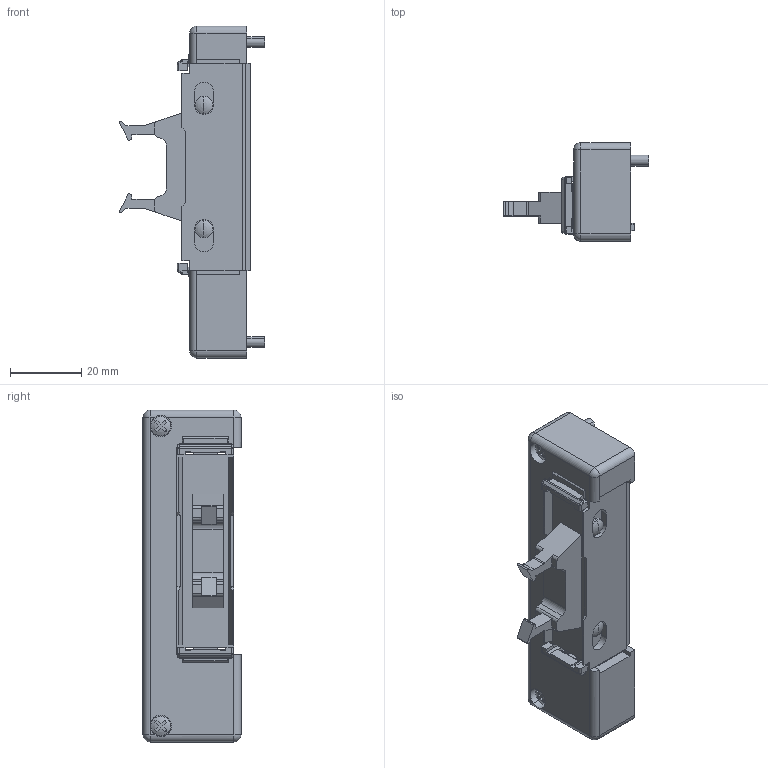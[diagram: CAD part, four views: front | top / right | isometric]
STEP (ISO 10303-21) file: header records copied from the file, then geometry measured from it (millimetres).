
FILE_DESCRIPTION( (''), '2;1');
FILE_NAME ('CVICAD32.25716.FZX-F10xN-E_10600.stp','2020-09-09T09:19:51',(''),(''),'spGate 12.6.6','','');
FILE_SCHEMA (('AUTOMOTIVE_DESIGN'));
Length unit declared in the file: millimetre
Products named in the file (3): Assembly; CVICAD32-prt0; CVICAD32-prt1
Assembly tree (2 placements, depth 2):
  Assembly
    CVICAD32-prt0
    CVICAD32-prt1
Bounding box: 40.7 x 27.5 x 93 mm (x, y, z)
Volume: 35512.6 mm3; surface area: 14357.3 mm2
Topology: 2 solids, 2 shells, 327 faces, 952 edges, 610 vertices
Faces by surface type: plane 225, cylinder 77, sphere 20, bspline 5
Entity records: 18088 total; most frequent: CARTESIAN_POINT 2093, ORIENTED_EDGE 1872, DIRECTION 1764, COLOUR_RGB 1265, PRESENTATION_STYLE_ASSIGNMENT 1265, STYLED_ITEM 1265, EDGE_CURVE 936, DRAUGHTING_PRE_DEFINED_CURVE_FONT 936
